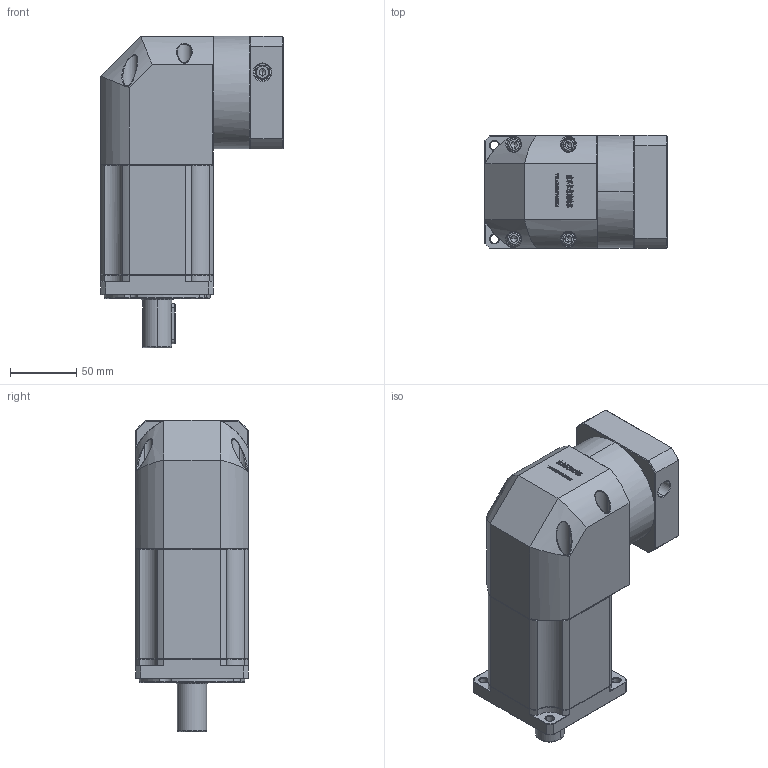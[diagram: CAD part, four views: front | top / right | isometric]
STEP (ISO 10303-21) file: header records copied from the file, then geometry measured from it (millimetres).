
FILE_DESCRIPTION (( 'STEP AP214' ), '1' );
FILE_NAME ('ZBR90-D22-L3-14-73-69.5X69.5-M6.step', '2022-05-07T15:08:07', ( '' ), ( 'Microsoft' ), 'SwSTEP 2.0', 'SolidWorks 2016', '' );
FILE_SCHEMA (( 'AUTOMOTIVE_DESIGN' ));
Length unit declared in the file: millimetre
Products named in the file (1): ZBR90-D22-L3-14-73-69.5X69.5-M6
Bounding box: 137.6 x 85 x 235 mm (x, y, z)
Volume: 1490908.9 mm3; surface area: 144858.1 mm2
Topology: 5 solids, 5 shells, 3003 faces, 7947 edges, 5078 vertices
Faces by surface type: plane 1577, bspline 603, cylinder 447, cone 350, torus 26
Entity records: 163022 total; most frequent: CARTESIAN_POINT 60479, ORIENTED_EDGE 15818, DIRECTION 12056, EDGE_CURVE 7909, LINE 5280, VECTOR 5280, VERTEX_POINT 5078, AXIS2_PLACEMENT_3D 3388
